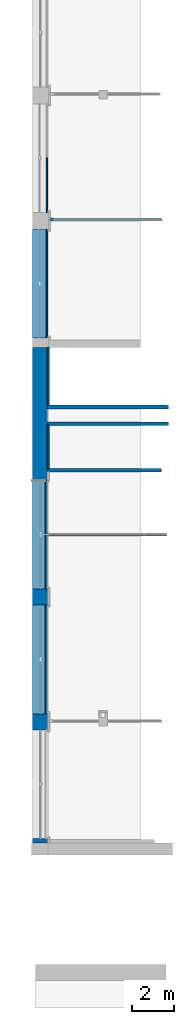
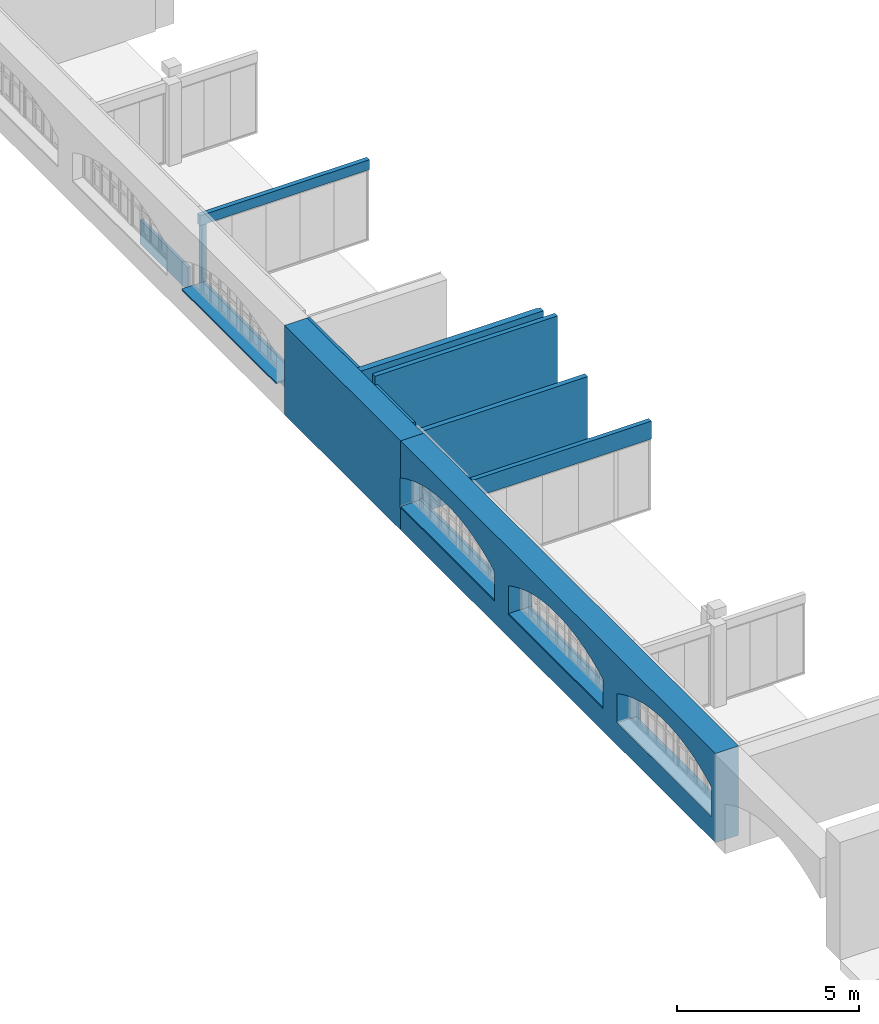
# One storey, part 28 of 32: 17 walls, 9 openings.
"""IFC2X3 building model written with IfcOpenShell, lengths in millimetres."""

from ifc_helpers import new_model, entity, si_unit, converted_unit, derived_unit, direction, frame, frame_2d, origin, origin_2d_with_axis, place, context, subcontext, project, spatial, polyline, circle_curve, parameter, trimmed, segment, composite_curve, rectangle, outline, extrude, clip, bounded_halfspace, material, layer, layer_set, layer_usage, type_object, element, save


model = new_model("IFC2X3")

# Units and contexts
model_context = context("Model", 3, precision=0.01, world=origin(), true_north=direction((6.123031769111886e-17, 1.0)))
body_context = subcontext(model_context, "Body", "Model", "MODEL_VIEW")
ifc_project = project(units=[si_unit("LENGTHUNIT", "METRE", prefix="MILLI"), si_unit("AREAUNIT", "SQUARE_METRE"), si_unit("VOLUMEUNIT", "CUBIC_METRE"), converted_unit("PLANEANGLEUNIT", "DEGREE", entity("IfcPlaneAngleMeasure", 0.017453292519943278), si_unit("PLANEANGLEUNIT", "RADIAN"), dimensions=[0, 0, 0, 0, 0, 0, 0]), si_unit("MASSUNIT", "GRAM", prefix="KILO"), derived_unit("MASSDENSITYUNIT", [(si_unit("MASSUNIT", "GRAM", prefix="KILO"), 1), (si_unit("LENGTHUNIT", "METRE"), -3)]), derived_unit("IONCONCENTRATIONUNIT", [(si_unit("MASSUNIT", "GRAM", prefix="KILO"), 1), (si_unit("LENGTHUNIT", "METRE"), -3)]), derived_unit("MOMENTOFINERTIAUNIT", [(si_unit("LENGTHUNIT", "METRE"), 4)]), si_unit("TIMEUNIT", "SECOND"), si_unit("FREQUENCYUNIT", "HERTZ"), si_unit("THERMODYNAMICTEMPERATUREUNIT", "DEGREE_CELSIUS"), derived_unit("THERMALTRANSMITTANCEUNIT", [(si_unit("MASSUNIT", "GRAM", prefix="KILO"), 1), (si_unit("THERMODYNAMICTEMPERATUREUNIT", "KELVIN"), -1), (si_unit("TIMEUNIT", "SECOND"), -3)]), derived_unit("THERMALCONDUCTANCEUNIT", [(si_unit("MASSUNIT", "GRAM", prefix="KILO"), 1), (si_unit("THERMODYNAMICTEMPERATUREUNIT", "KELVIN"), -1), (si_unit("TIMEUNIT", "SECOND"), -3), (si_unit("LENGTHUNIT", "METRE"), 1)]), derived_unit("VOLUMETRICFLOWRATEUNIT", [(si_unit("LENGTHUNIT", "METRE", prefix="DECI"), 3), (si_unit("TIMEUNIT", "SECOND"), -1)]), derived_unit("MASSFLOWRATEUNIT", [(si_unit("MASSUNIT", "GRAM", prefix="KILO"), 1), (si_unit("TIMEUNIT", "SECOND"), -1)]), derived_unit("ROTATIONALFREQUENCYUNIT", [(si_unit("TIMEUNIT", "SECOND"), -1)]), si_unit("ELECTRICCURRENTUNIT", "AMPERE"), si_unit("ELECTRICVOLTAGEUNIT", "VOLT"), si_unit("POWERUNIT", "WATT"), si_unit("FORCEUNIT", "NEWTON", prefix="KILO"), si_unit("ILLUMINANCEUNIT", "LUX"), si_unit("LUMINOUSFLUXUNIT", "LUMEN"), si_unit("LUMINOUSINTENSITYUNIT", "CANDELA"), si_unit("ENERGYUNIT", "JOULE"), derived_unit("USERDEFINED", [(si_unit("MASSUNIT", "GRAM", prefix="KILO"), -1), (si_unit("LENGTHUNIT", "METRE"), -2), (si_unit("TIMEUNIT", "SECOND"), 3), (si_unit("LUMINOUSFLUXUNIT", "LUMEN"), 1)]), derived_unit("USERDEFINED", [(si_unit("MASSUNIT", "GRAM", prefix="KILO"), 1), (si_unit("TIMEUNIT", "SECOND"), -3), (si_unit("LENGTHUNIT", "METRE"), 3), (si_unit("ELECTRICCURRENTUNIT", "AMPERE"), -2)]), derived_unit("SOUNDPOWERUNIT", [(si_unit("MASSUNIT", "GRAM", prefix="KILO"), 1), (si_unit("TIMEUNIT", "SECOND"), -3), (si_unit("LENGTHUNIT", "METRE"), 2)]), derived_unit("SOUNDPRESSUREUNIT", [(si_unit("MASSUNIT", "GRAM", prefix="KILO"), 1), (si_unit("LENGTHUNIT", "METRE"), -1), (si_unit("TIMEUNIT", "SECOND"), -2)]), derived_unit("LINEARVELOCITYUNIT", [(si_unit("LENGTHUNIT", "METRE"), 1), (si_unit("TIMEUNIT", "SECOND"), -1)]), si_unit("PRESSUREUNIT", "PASCAL"), derived_unit("USERDEFINED", [(si_unit("MASSUNIT", "GRAM", prefix="KILO"), 1), (si_unit("LENGTHUNIT", "METRE"), -2), (si_unit("TIMEUNIT", "SECOND"), -2)]), derived_unit("LINEARFORCEUNIT", [(si_unit("MASSUNIT", "GRAM", prefix="KILO"), 1), (si_unit("TIMEUNIT", "SECOND"), -2)]), derived_unit("PLANARFORCEUNIT", [(si_unit("MASSUNIT", "GRAM", prefix="KILO"), 1), (si_unit("LENGTHUNIT", "METRE"), -1), (si_unit("TIMEUNIT", "SECOND"), -2)]), derived_unit("SPECIFICHEATCAPACITYUNIT", [(si_unit("THERMODYNAMICTEMPERATUREUNIT", "KELVIN"), -1), (si_unit("LENGTHUNIT", "METRE"), 2), (si_unit("TIMEUNIT", "SECOND"), -2)]), derived_unit("HEATFLUXDENSITYUNIT", [(si_unit("MASSUNIT", "GRAM", prefix="KILO"), 1), (si_unit("TIMEUNIT", "SECOND"), -3)]), derived_unit("HEATINGVALUEUNIT", [(si_unit("LENGTHUNIT", "METRE"), 2), (si_unit("TIMEUNIT", "SECOND"), -2)]), derived_unit("VAPORPERMEABILITYUNIT", [(si_unit("LENGTHUNIT", "METRE"), -1), (si_unit("TIMEUNIT", "SECOND"), 1)]), derived_unit("DYNAMICVISCOSITYUNIT", [(si_unit("MASSUNIT", "GRAM", prefix="KILO"), 1), (si_unit("TIMEUNIT", "SECOND"), -1), (si_unit("LENGTHUNIT", "METRE"), -1)]), derived_unit("THERMALEXPANSIONCOEFFICIENTUNIT", [(si_unit("THERMODYNAMICTEMPERATUREUNIT", "KELVIN"), -1)]), derived_unit("MODULUSOFELASTICITYUNIT", [(si_unit("MASSUNIT", "GRAM", prefix="KILO"), 1), (si_unit("LENGTHUNIT", "METRE"), -1), (si_unit("TIMEUNIT", "SECOND"), -2)]), derived_unit("ISOTHERMALMOISTURECAPACITYUNIT", [(si_unit("MASSUNIT", "GRAM", prefix="KILO"), -1), (si_unit("LENGTHUNIT", "METRE"), 3)]), derived_unit("MOISTUREDIFFUSIVITYUNIT", [(si_unit("TIMEUNIT", "SECOND"), -1), (si_unit("LENGTHUNIT", "METRE"), 2)]), derived_unit("MASSPERLENGTHUNIT", [(si_unit("MASSUNIT", "GRAM", prefix="KILO"), 1), (si_unit("LENGTHUNIT", "METRE"), -1)]), derived_unit("THERMALRESISTANCEUNIT", [(si_unit("MASSUNIT", "GRAM", prefix="KILO"), -1), (si_unit("TIMEUNIT", "SECOND"), 3), (si_unit("THERMODYNAMICTEMPERATUREUNIT", "KELVIN"), 1)]), derived_unit("ACCELERATIONUNIT", [(si_unit("LENGTHUNIT", "METRE"), 1), (si_unit("TIMEUNIT", "SECOND"), -2)]), derived_unit("ANGULARVELOCITYUNIT", [(si_unit("TIMEUNIT", "SECOND"), -1), (si_unit("PLANEANGLEUNIT", "RADIAN"), 1)]), derived_unit("LINEARSTIFFNESSUNIT", [(si_unit("MASSUNIT", "GRAM", prefix="KILO"), 1), (si_unit("TIMEUNIT", "SECOND"), -2)]), derived_unit("WARPINGCONSTANTUNIT", [(si_unit("LENGTHUNIT", "METRE"), 6)]), derived_unit("LINEARMOMENTUNIT", [(si_unit("MASSUNIT", "GRAM", prefix="KILO"), 1), (si_unit("LENGTHUNIT", "METRE"), 1), (si_unit("TIMEUNIT", "SECOND"), -2)]), derived_unit("TORQUEUNIT", [(si_unit("MASSUNIT", "GRAM", prefix="KILO"), 1), (si_unit("LENGTHUNIT", "METRE"), 2), (si_unit("TIMEUNIT", "SECOND"), -2)])], contexts=[model_context])

# Site, building, storey
site_placement = place(None, origin())
site = spatial("IfcSite", under=ifc_project, at=site_placement, Name="Default", CompositionType="ELEMENT")
building_placement = place(site_placement, origin())
building = spatial("IfcBuilding", under=site, at=building_placement, Name="Eesti Rahvusraamatukogu hoone renoveerimise projekteerimistööd", CompositionType="ELEMENT")
storey_placement = place(building_placement, frame((0.0, 0.0, 4950.000000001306)))
storey = spatial("IfcBuildingStorey", under=building, at=storey_placement, Name="2. korrus", CompositionType="ELEMENT", Elevation=4950.000000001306)

# Wall
ifc_material_1 = material(Name="ol. olev materjal")
ifc_layer_1 = layer(ifc_material_1, 780.0)
ifc_layer_set_1 = layer_set([ifc_layer_1], Name="Basic Wall:ol. olev - 780mm")
ifc_layer_usage_1 = layer_usage(ifc_layer_set_1, "AXIS2", "NEGATIVE", 390.0)
wall_type_1 = type_object("IfcWallType", Name="Basic Wall:ol. olev - 780mm", PredefinedType="STANDARD", material=ifc_layer_set_1)
wall_1_placement = place(storey_placement, frame((-36390.0, 35955.440291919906, 750.0), z_axis=(0.0, 0.0, 1.0), x_axis=(0.0, -1.0, 0.0)))
element("IfcWallStandardCase", 1, at=wall_1_placement, inside=storey, type_object=wall_type_1, material=ifc_layer_usage_1, Name="Basic Wall:ol. olev - 780mm", ObjectType="Basic Wall:ol. olev - 780mm", context=body_context, shape_type="SweptSolid", body=[
    extrude(rectangle(XDim=660.0000000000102, YDim=5199.999999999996, at=frame_2d((-2.1600499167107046e-12, 0.0), x_axis=(1.0, 0.0))), frame((2600.0, -60.0, 0.0), z_axis=(0.0, 0.0, 1.0), x_axis=(0.0, 1.0, 0.0)), (0.0, 0.0, 1.0), 49.99999999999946),
])

# Wall, openings
ifc_layer_2 = layer(ifc_material_1, 720.0)
ifc_layer_set_2 = layer_set([ifc_layer_2], Name="Basic Wall:ol. olev - 720mm")
ifc_layer_usage_2 = layer_usage(ifc_layer_set_2, "AXIS2", "NEGATIVE", 360.0)
wall_type_2 = type_object("IfcWallType", Name="Basic Wall:ol. olev - 720mm", PredefinedType="STANDARD", material=ifc_layer_set_2)
wall_2_placement = place(storey_placement, frame((-36420.0, 30305.0, 0.0), z_axis=(0.0, 0.0, 1.0), x_axis=(0.0, -1.0, 0.0)))
wall_2 = element("IfcWallStandardCase", 2, at=wall_2_placement, inside=storey, type_object=wall_type_2, material=ifc_layer_usage_2, Name="Basic Wall:ol. olev - 720mm", ObjectType="Basic Wall:ol. olev - 720mm", context=body_context, shape_type="SweptSolid", body=[
    extrude(rectangle(XDim=6398.554408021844, YDim=720.0000000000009, at=frame_2d((3199.277204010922, 7.673861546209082e-13), x_axis=(-1.0, 0.0))), origin(), (0.0, 0.0, 1.0), 3000.000000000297),
])
opening_1_placement = place(wall_2_placement, frame((11557.899680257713, -512.4000000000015, 750.0)))
element("IfcOpeningElement", 3, at=opening_1_placement, cuts=wall_2, Name="Basic Wall:ol. olev - 720mm", ObjectType="Opening", context=body_context, shape_type="SweptSolid", body=[
    extrude(outline(composite_curve([segment(polyline([(-465.0, -2600.0), (465.0, -2600.0)]), True, "CONTINUOUS"), segment(trimmed(circle_curve(frame_2d((-4244.776119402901, 0.0), x_axis=(0.0, -1.0)), 5379.776119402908), [parameter(61.09940419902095)], [parameter(118.90059580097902)], True, "PARAMETER"), True, "CONTINUOUS"), segment(polyline([(465.0, 2600.0), (-465.0, 2600.0)]), True, "CONTINUOUS"), segment(polyline([(-465.0, 2600.0), (-465.0, -2600.0)]), True, "CONTINUOUS")], self_intersect=False)), frame((-2601.5952722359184, 0.0, 465.0), z_axis=(0.0, 1.0, 0.0), x_axis=(0.0, 0.0, 1.0)), (0.0, 0.0, 1.0), 1024.8000000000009),
])
opening_2_placement = place(wall_2_placement, frame((11557.899680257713, -512.4000000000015, 800.0)))
element("IfcOpeningElement", 4, at=opening_2_placement, cuts=wall_2, Name="Basic Wall:ol. olev - 720mm", ObjectType="Opening", context=body_context, shape_type="SweptSolid", body=[
    extrude(outline(composite_curve([segment(polyline([(-465.0, -2600.0), (465.0, -2600.0)]), True, "CONTINUOUS"), segment(trimmed(circle_curve(frame_2d((-4244.776119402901, 0.0), x_axis=(0.0, -1.0)), 5379.776119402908), [parameter(61.09940419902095)], [parameter(118.90059580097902)], True, "PARAMETER"), True, "CONTINUOUS"), segment(polyline([(465.0, 2600.0), (-465.0, 2600.0)]), True, "CONTINUOUS"), segment(polyline([(-465.0, 2600.0), (-465.0, -2600.0)]), True, "CONTINUOUS")], self_intersect=False)), frame((-2601.5952722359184, 0.0, 465.0), z_axis=(0.0, 1.0, 0.0), x_axis=(0.0, 0.0, 1.0)), (0.0, 0.0, 1.0), 1024.8000000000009),
])

# Wall
ifc_layer_3 = layer(ifc_material_1, 200.0)
ifc_layer_set_3 = layer_set([ifc_layer_3], Name="Basic Wall:ol. olev - 200mm")
ifc_layer_usage_3 = layer_usage(ifc_layer_set_3, "AXIS2", "NEGATIVE", 100.0)
wall_type_3 = type_object("IfcWallType", Name="Basic Wall:ol. olev - 200mm", PredefinedType="STANDARD", material=ifc_layer_set_3)
wall_3_placement = place(storey_placement, frame((-36060.0, 27445.0, 0.0)))
element("IfcWallStandardCase", 5, at=wall_3_placement, inside=storey, type_object=wall_type_3, material=ifc_layer_usage_3, Name="Basic Wall:ol. olev - 200mm", ObjectType="Basic Wall:ol. olev - 200mm", context=body_context, shape_type="Clipping", body=[
    clip(extrude(outline(polyline([(5800.0, -100.0), (5800.0, 75.0), (5720.0, 75.0), (5720.0, 100.0), (5565.0, 100.0), (5465.0, 100.0), (0.0, 100.0), (0.0, -100.0), (5800.0, -100.0)])), origin(), (0.0, 0.0, 1.0), 3000.000000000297), bounded_halfspace(frame((2290.0, -100.0, 3000.0), z_axis=(0.0, 0.0, -1.0), x_axis=(0.0, 1.0, 0.0)), True, frame((2290.0, -100.0, 3000.0)), polyline([(0.0, 0.0), (3510.0, 0.0), (3510.0, 175.0), (3430.0, 175.0), (3430.0, 200.0), (3275.0, 200.0), (3175.0, 200.0), (0.0, 200.0), (0.0, 0.0)]))),
])

# Wall, openings
ifc_layer_4 = layer(ifc_material_1, 740.0)
ifc_layer_set_4 = layer_set([ifc_layer_4], Name="Basic Wall:ol. olev - 740mm")
ifc_layer_usage_4 = layer_usage(ifc_layer_set_4, "AXIS2", "NEGATIVE", 370.0)
wall_type_4 = type_object("IfcWallType", Name="Basic Wall:ol. olev - 740mm", PredefinedType="STANDARD", material=ifc_layer_set_4)
wall_4_placement = place(storey_placement, frame((-36410.0, 23906.445591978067, 0.0), z_axis=(0.0, 0.0, 1.0), x_axis=(0.0, -1.0, 0.0)))
wall_4 = element("IfcWallStandardCase", 6, at=wall_4_placement, inside=storey, type_object=wall_type_4, material=ifc_layer_usage_4, Name="Basic Wall:ol. olev - 740mm", ObjectType="Basic Wall:ol. olev - 740mm", context=body_context, shape_type="SweptSolid", body=[
    extrude(rectangle(XDim=17316.445591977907, YDim=739.9999999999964, at=frame_2d((8658.222795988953, -4.263256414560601e-13), x_axis=(-1.0, 0.0))), origin(), (0.0, 0.0, 1.0), 3000.000000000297),
])
opening_3_placement = place(wall_4_placement, frame((5159.3452722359, -522.4000000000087, 800.0)))
element("IfcOpeningElement", 7, at=opening_3_placement, cuts=wall_4, Name="Basic Wall:ol. olev - 740mm", ObjectType="Opening", context=body_context, shape_type="SweptSolid", body=[
    extrude(outline(composite_curve([segment(polyline([(-465.0, -2600.0), (465.0, -2600.0)]), True, "CONTINUOUS"), segment(trimmed(circle_curve(frame_2d((-4244.776119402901, 0.0), x_axis=(0.0, -1.0)), 5379.776119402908), [parameter(61.09940419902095)], [parameter(118.90059580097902)], True, "PARAMETER"), True, "CONTINUOUS"), segment(polyline([(465.0, 2600.0), (-465.0, 2600.0)]), True, "CONTINUOUS"), segment(polyline([(-465.0, 2600.0), (-465.0, -2600.0)]), True, "CONTINUOUS")], self_intersect=False)), frame((-2601.5952722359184, 0.0, 465.0), z_axis=(0.0, 1.0, 0.0), x_axis=(0.0, 0.0, 1.0)), (0.0, 0.0, 1.0), 1044.8000000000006),
])
opening_4_placement = place(wall_4_placement, frame((5159.3452722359, -522.4000000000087, 750.0)))
element("IfcOpeningElement", 8, at=opening_4_placement, cuts=wall_4, Name="Basic Wall:ol. olev - 740mm", ObjectType="Opening", context=body_context, shape_type="SweptSolid", body=[
    extrude(outline(composite_curve([segment(polyline([(-465.0, -2600.0), (465.0, -2600.0)]), True, "CONTINUOUS"), segment(trimmed(circle_curve(frame_2d((-4244.776119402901, 0.0), x_axis=(0.0, -1.0)), 5379.776119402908), [parameter(61.09940419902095)], [parameter(118.90059580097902)], True, "PARAMETER"), True, "CONTINUOUS"), segment(polyline([(465.0, 2600.0), (-465.0, 2600.0)]), True, "CONTINUOUS"), segment(polyline([(-465.0, 2600.0), (-465.0, -2600.0)]), True, "CONTINUOUS")], self_intersect=False)), frame((-2601.5952722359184, 0.0, 465.0), z_axis=(0.0, 1.0, 0.0), x_axis=(0.0, 0.0, 1.0)), (0.0, 0.0, 1.0), 1044.8000000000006),
])
opening_5_placement = place(wall_4_placement, frame((17111.440864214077, -522.4000000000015, 750.0)))
element("IfcOpeningElement", 9, at=opening_5_placement, cuts=wall_4, Name="Basic Wall:ol. olev - 740mm", ObjectType="Opening", context=body_context, shape_type="SweptSolid", body=[
    extrude(outline(composite_curve([segment(polyline([(-465.0, -2600.0), (465.0, -2600.0)]), True, "CONTINUOUS"), segment(trimmed(circle_curve(frame_2d((-4244.776119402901, 0.0), x_axis=(0.0, -1.0)), 5379.776119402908), [parameter(61.09940419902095)], [parameter(118.90059580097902)], True, "PARAMETER"), True, "CONTINUOUS"), segment(polyline([(465.0, 2600.0), (-465.0, 2600.0)]), True, "CONTINUOUS"), segment(polyline([(-465.0, 2600.0), (-465.0, -2600.0)]), True, "CONTINUOUS")], self_intersect=False)), frame((-2601.5952722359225, 0.0, 465.0), z_axis=(0.0, 1.0, 0.0), x_axis=(0.0, 0.0, 1.0)), (0.0, 0.0, 1.0), 1044.8000000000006),
])
opening_6_placement = place(wall_4_placement, frame((11139.345272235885, -522.4000000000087, 750.0)))
element("IfcOpeningElement", 10, at=opening_6_placement, cuts=wall_4, Name="Basic Wall:ol. olev - 740mm", ObjectType="Opening", context=body_context, shape_type="SweptSolid", body=[
    extrude(outline(composite_curve([segment(polyline([(-465.0, -2600.0), (465.0, -2600.0)]), True, "CONTINUOUS"), segment(trimmed(circle_curve(frame_2d((-4244.776119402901, 0.0), x_axis=(0.0, -1.0)), 5379.776119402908), [parameter(61.09940419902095)], [parameter(118.90059580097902)], True, "PARAMETER"), True, "CONTINUOUS"), segment(polyline([(465.0, 2600.0), (-465.0, 2600.0)]), True, "CONTINUOUS"), segment(polyline([(-465.0, 2600.0), (-465.0, -2600.0)]), True, "CONTINUOUS")], self_intersect=False)), frame((-2601.5952722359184, 0.0, 465.0), z_axis=(0.0, 1.0, 0.0), x_axis=(0.0, 0.0, 1.0)), (0.0, 0.0, 1.0), 1044.8000000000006),
])
opening_7_placement = place(wall_4_placement, frame((17111.440864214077, -522.4000000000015, 800.0)))
element("IfcOpeningElement", 11, at=opening_7_placement, cuts=wall_4, Name="Basic Wall:ol. olev - 740mm", ObjectType="Opening", context=body_context, shape_type="SweptSolid", body=[
    extrude(outline(composite_curve([segment(polyline([(-465.0, -2600.0), (465.0, -2600.0)]), True, "CONTINUOUS"), segment(trimmed(circle_curve(frame_2d((-4244.776119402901, 0.0), x_axis=(0.0, -1.0)), 5379.776119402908), [parameter(61.09940419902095)], [parameter(118.90059580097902)], True, "PARAMETER"), True, "CONTINUOUS"), segment(polyline([(465.0, 2600.0), (-465.0, 2600.0)]), True, "CONTINUOUS"), segment(polyline([(-465.0, 2600.0), (-465.0, -2600.0)]), True, "CONTINUOUS")], self_intersect=False)), frame((-2601.5952722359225, 0.0, 465.0), z_axis=(0.0, 1.0, 0.0), x_axis=(0.0, 0.0, 1.0)), (0.0, 0.0, 1.0), 1044.8000000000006),
])
opening_8_placement = place(wall_4_placement, frame((11139.345272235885, -522.4000000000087, 800.0)))
element("IfcOpeningElement", 12, at=opening_8_placement, cuts=wall_4, Name="Basic Wall:ol. olev - 740mm", ObjectType="Opening", context=body_context, shape_type="SweptSolid", body=[
    extrude(outline(composite_curve([segment(polyline([(-465.0, -2600.0), (465.0, -2600.0)]), True, "CONTINUOUS"), segment(trimmed(circle_curve(frame_2d((-4244.776119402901, 0.0), x_axis=(0.0, -1.0)), 5379.776119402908), [parameter(61.09940419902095)], [parameter(118.90059580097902)], True, "PARAMETER"), True, "CONTINUOUS"), segment(polyline([(465.0, 2600.0), (-465.0, 2600.0)]), True, "CONTINUOUS"), segment(polyline([(-465.0, 2600.0), (-465.0, -2600.0)]), True, "CONTINUOUS")], self_intersect=False)), frame((-2601.5952722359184, 0.0, 465.0), z_axis=(0.0, 1.0, 0.0), x_axis=(0.0, 0.0, 1.0)), (0.0, 0.0, 1.0), 1044.8000000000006),
])
opening_9_placement = place(wall_4_placement, frame((23906.445591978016, 36410.0, -4950.000000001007)))
element("IfcOpeningElement", 13, at=opening_9_placement, cuts=wall_4, Name="Basic Wall:ol. olev - 740mm", ObjectType="Recess", context=body_context, shape_type="SweptSolid", body=[
    extrude(rectangle(XDim=799.9999999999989, YDim=5199.999999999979, at=frame_2d((-5.400124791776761e-13, 0.0), x_axis=(1.0, 0.0))), frame((-21348.69559197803, -36159.51294577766, 5350.000000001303), z_axis=(0.0, 1.0, 0.0), x_axis=(0.0, 0.0, -1.0)), (0.0, 0.0, 1.0), 119.9999999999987),
    extrude(rectangle(XDim=799.9999999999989, YDim=5199.999999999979, at=frame_2d((-5.400124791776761e-13, 0.0), x_axis=(1.0, 0.0))), frame((-9396.599999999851, -36159.51294577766, 5350.000000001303), z_axis=(0.0, 1.0, 0.0), x_axis=(0.0, 0.0, -1.0)), (0.0, 0.0, 1.0), 119.9999999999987),
    extrude(rectangle(XDim=799.9999999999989, YDim=5199.999999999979, at=frame_2d((-5.400124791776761e-13, 0.0), x_axis=(1.0, 0.0))), frame((-15368.695591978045, -36159.512945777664, 5350.000000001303), z_axis=(0.0, 1.0, 0.0), x_axis=(0.0, 0.0, -1.0)), (0.0, 0.0, 1.0), 119.9999999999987),
])

# Walls
ifc_layer_usage_5 = layer_usage(ifc_layer_set_4, "AXIS2", "NEGATIVE", 370.0)
wall_5_placement = place(storey_placement, frame((-36410.0, 23906.445591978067, 750.0), z_axis=(0.0, 0.0, 1.0), x_axis=(0.0, -1.0, 0.0)))
element("IfcWallStandardCase", 14, at=wall_5_placement, inside=storey, type_object=wall_type_4, material=ifc_layer_usage_5, Name="Basic Wall:ol. olev - 740mm", ObjectType="Basic Wall:ol. olev - 740mm", context=body_context, shape_type="SweptSolid", body=[
    extrude(rectangle(XDim=620.487054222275, YDim=5157.74999999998, at=frame_2d((-4.320099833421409e-12, -2.0463630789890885e-12), x_axis=(1.0, 0.0))), frame((2578.8749999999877, -59.756472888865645, 0.0), z_axis=(0.0, 0.0, 1.0), x_axis=(0.0, 1.0, 0.0)), (0.0, 0.0, 1.0), 49.99999999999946),
])
ifc_layer_usage_6 = layer_usage(ifc_layer_set_4, "AXIS2", "NEGATIVE", 370.0)
wall_6_placement = place(storey_placement, frame((-36410.0, 17968.6955919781, 750.0), z_axis=(0.0, 0.0, 1.0), x_axis=(0.0, -1.0, 0.0)))
element("IfcWallStandardCase", 15, at=wall_6_placement, inside=storey, type_object=wall_type_4, material=ifc_layer_usage_6, Name="Basic Wall:ol. olev - 740mm", ObjectType="Basic Wall:ol. olev - 740mm", context=body_context, shape_type="SweptSolid", body=[
    extrude(rectangle(XDim=620.487054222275, YDim=5199.999999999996, at=origin_2d_with_axis()), frame((2600.0, -59.75647288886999, 0.0), z_axis=(0.0, 0.0, 1.0), x_axis=(0.0, 1.0, 0.0)), (0.0, 0.0, 1.0), 49.99999999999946),
])
ifc_layer_5 = layer(ifc_material_1, 160.0)
ifc_layer_set_5 = layer_set([ifc_layer_5], Name="Basic Wall:ol. olev - 160mm")
ifc_layer_usage_7 = layer_usage(ifc_layer_set_5, "AXIS2", "NEGATIVE", 80.0)
wall_type_5 = type_object("IfcWallType", Name="Basic Wall:ol. olev - 160mm", PredefinedType="STANDARD", material=ifc_layer_set_5)
wall_7_placement = place(storey_placement, frame((-36060.0, 24420.0, 0.0)))
element("IfcWallStandardCase", 16, at=wall_7_placement, inside=storey, type_object=wall_type_5, material=ifc_layer_usage_7, Name="Basic Wall:ol. olev - 160mm", ObjectType="Basic Wall:ol. olev - 160mm", context=body_context, shape_type="Clipping", body=[
    clip(extrude(rectangle(XDim=5470.000000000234, YDim=159.9999999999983, at=frame_2d((2735.000000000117, -2.842170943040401e-14), x_axis=(-1.0, 0.0))), origin(), (0.0, 0.0, 1.0), 2730.0000000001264), bounded_halfspace(frame((0.0, -80.0, 2730.0), z_axis=(0.0, 0.0, -1.0), x_axis=(-1.0, 0.0, 0.0)), True, frame((0.0, -80.0, 2730.0), z_axis=(0.0, 0.0, -1.0), x_axis=(-1.0, 0.0, 0.0)), polyline([(0.0, 0.0), (0.0, 160.0), (-5470.0, 160.0), (-5470.0, 0.0), (0.0, 0.0)]))),
])
ifc_material_2 = material(Name="EST. Ehitusplaat. Kipsplaat")
ifc_layer_6 = layer(ifc_material_2, 12.5)
ifc_layer_7 = layer(ifc_material_2, 12.5)
ifc_material_3 = material(Name="EST. Roov. Kipsplaadi alusroov.Mineraalvillaga. Vertikaalne")
ifc_layer_8 = layer(ifc_material_3, 95.00000000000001)
ifc_layer_9 = layer(ifc_material_2, 12.5)
ifc_layer_10 = layer(ifc_material_2, 12.5)
ifc_layer_set_6 = layer_set([ifc_layer_6, ifc_layer_7, ifc_layer_8, ifc_layer_9, ifc_layer_10], Name="Basic Wall:SS-52 - 145 kergsein 48db")
ifc_layer_usage_8 = layer_usage(ifc_layer_set_6, "AXIS2", "NEGATIVE", 72.5)
wall_type_6 = type_object("IfcWallType", Name="Basic Wall:SS-52 - 145 kergsein 48db", PredefinedType="STANDARD", material=ifc_layer_set_6)
wall_8_placement = place(storey_placement, frame((-35970.0, 36420.0, 2399.999999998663)))
element("IfcWallStandardCase", 17, at=wall_8_placement, inside=storey, type_object=wall_type_6, material=ifc_layer_usage_8, Name="Basic Wall:SS-52 - 145 kergsein 48db", ObjectType="Basic Wall:SS-52 - 145 kergsein 48db", context=body_context, shape_type="Clipping", body=[
    clip(extrude(rectangle(XDim=5380.000000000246, YDim=145.00000000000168, at=frame_2d((2690.000000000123, 0.0), x_axis=(-1.0, 0.0))), origin(), (0.0, 0.0, 1.0), 330.00000000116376), bounded_halfspace(frame((0.0, -72.50000000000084, 330.0), z_axis=(0.0, 0.0, -1.0), x_axis=(-1.0, 0.0, 0.0)), True, frame((0.0, -72.50000000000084, 330.0), z_axis=(0.0, 0.0, -1.0), x_axis=(-1.0, 0.0, 0.0)), polyline([(0.0, 0.0), (0.0, 145.0), (-5380.0, 145.0), (-5380.0, 0.0), (0.0, 0.0)]))),
])
ifc_layer_usage_9 = layer_usage(ifc_layer_set_6, "AXIS2", "NEGATIVE", 72.5)
wall_9_placement = place(storey_placement, frame((-36010.0, 21350.0, 2399.999999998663)))
element("IfcWallStandardCase", 18, at=wall_9_placement, inside=storey, type_object=wall_type_6, material=ifc_layer_usage_9, Name="Basic Wall:SS-52 - 145 kergsein 48db", ObjectType="Basic Wall:SS-52 - 145 kergsein 48db", context=body_context, shape_type="SweptSolid", body=[
    extrude(rectangle(XDim=5675.000000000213, YDim=145.00000000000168, at=frame_2d((2837.5000000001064, 0.0), x_axis=(-1.0, 0.0))), origin(), (0.0, 0.0, 1.0), 600.0000000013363),
])
ifc_layer_usage_10 = layer_usage(ifc_layer_set_6, "AXIS2", "NEGATIVE", 72.5)
wall_10_placement = place(storey_placement, frame((-35915.49999999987, 36420.0, 0.0)))
element("IfcWallStandardCase", 19, at=wall_10_placement, inside=storey, type_object=wall_type_6, material=ifc_layer_usage_10, Name="Basic Wall:SS-52 - 145 kergsein 48db", ObjectType="Basic Wall:SS-52 - 145 kergsein 48db", context=body_context, shape_type="SweptSolid", body=[
    extrude(rectangle(XDim=150.00000000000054, YDim=145.00000000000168, at=frame_2d((75.00000000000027, 0.0), x_axis=(-1.0, 0.0))), origin(), (0.0, 0.0, 1.0), 2400.0),
])
ifc_material_4 = material(Name="EST. Müüritis. Väikeplokk. Betoon-õõnesplokk")
ifc_layer_11 = layer(ifc_material_4, 150.0)
ifc_layer_set_7 = layer_set([ifc_layer_11], Name="Basic Wall:SS-71 - 150 poorbetoon acoustic")
ifc_layer_usage_11 = layer_usage(ifc_layer_set_7, "AXIS2", "NEGATIVE", 75.0)
wall_type_7 = type_object("IfcWallType", Name="Basic Wall:SS-71 - 150 poorbetoon acoustic", PredefinedType="STANDARD", material=ifc_layer_set_7)
wall_11_placement = place(storey_placement, frame((-36060.0, 26645.0, 0.0)))
element("IfcWallStandardCase", 20, at=wall_11_placement, inside=storey, type_object=wall_type_7, material=ifc_layer_usage_11, Name="Basic Wall:SS-71 - 150 poorbetoon acoustic", ObjectType="Basic Wall:SS-71 - 150 poorbetoon acoustic", context=body_context, shape_type="SweptSolid", body=[
    extrude(rectangle(XDim=5800.000000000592, YDim=150.00000000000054, at=frame_2d((2900.000000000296, 0.0), x_axis=(-1.0, 0.0))), origin(), (0.0, 0.0, 1.0), 3299.999999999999),
])
ifc_material_5 = material(Name="EST. Soojustus.PIR_Powerwall Pro")
ifc_layer_12 = layer(ifc_material_5, 30.0)
ifc_material_6 = material(Name="EST. Metall. Alumiinium. Mütsprofiil.")
ifc_layer_13 = layer(ifc_material_6, 42.0)
ifc_layer_14 = layer(ifc_material_2, 12.5)
ifc_layer_set_8 = layer_set([ifc_layer_12, ifc_layer_13, ifc_layer_14], Name="Basic Wall:VS-03.1 - soojustus")
ifc_layer_usage_12 = layer_usage(ifc_layer_set_8, "AXIS2", "NEGATIVE", 42.25000000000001)
wall_type_8 = type_object("IfcWallType", Name="Basic Wall:VS-03.1 - soojustus", PredefinedType="STANDARD", material=ifc_layer_set_8)
wall_12_placement = place(storey_placement, frame((-36017.749999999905, 24500.0, 0.0), z_axis=(0.0, 0.0, 1.0), x_axis=(0.0, 1.0, 0.0)))
element("IfcWallStandardCase", 21, at=wall_12_placement, inside=storey, type_object=wall_type_8, material=ifc_layer_usage_12, Name="Basic Wall:VS-03.1 - soojustus", ObjectType="Basic Wall:VS-03.1 - soojustus", context=body_context, shape_type="SweptSolid", body=[
    extrude(rectangle(XDim=2100.0000000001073, YDim=84.49999999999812, at=frame_2d((1050.0000000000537, 6.359357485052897e-13), x_axis=(-1.0, 0.0))), origin(), (0.0, 0.0, 1.0), 2999.999999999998),
])
ifc_layer_usage_13 = layer_usage(ifc_layer_set_8, "AXIS2", "NEGATIVE", 42.25000000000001)
wall_13_placement = place(storey_placement, frame((-36017.7499999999, 27545.0, 0.0), z_axis=(0.0, 0.0, 1.0), x_axis=(0.0, 1.0, 0.0)))
element("IfcWallStandardCase", 22, at=wall_13_placement, inside=storey, type_object=wall_type_8, material=ifc_layer_usage_13, Name="Basic Wall:VS-03.1 - soojustus", ObjectType="Basic Wall:VS-03.1 - soojustus", context=body_context, shape_type="SweptSolid", body=[
    extrude(rectangle(XDim=2760.0000000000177, YDim=84.49999999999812, at=frame_2d((1380.0000000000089, 4.618527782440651e-13), x_axis=(-1.0, 0.0))), origin(), (0.0, 0.0, 1.0), 2999.999999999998),
])
ifc_layer_usage_14 = layer_usage(ifc_layer_set_8, "AXIS2", "POSITIVE", -42.25000000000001)
wall_14_placement = place(storey_placement, frame((-36077.74999999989, 35955.440291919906, 0.0), z_axis=(0.0, 0.0, 1.0), x_axis=(0.0, -1.0, 0.0)))
element("IfcWallStandardCase", 23, at=wall_14_placement, inside=storey, type_object=wall_type_8, material=ifc_layer_usage_14, Name="Basic Wall:VS-03.1 - soojustus", ObjectType="Basic Wall:VS-03.1 - soojustus", context=body_context, shape_type="SweptSolid", body=[
    extrude(rectangle(XDim=5199.999999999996, YDim=84.49999999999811, at=frame_2d((2599.999999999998, 0.0), x_axis=(-1.0, 0.0))), origin(), (0.0, 0.0, 1.0), 800.0000000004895),
])
ifc_layer_usage_15 = layer_usage(ifc_layer_set_8, "AXIS2", "POSITIVE", -42.25000000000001)
wall_15_placement = place(storey_placement, frame((-36077.74999999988, 39407.50000000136, 0.0), z_axis=(0.0, 0.0, 1.0), x_axis=(0.0, -1.0, 0.0)))
element("IfcWallStandardCase", 24, at=wall_15_placement, inside=storey, type_object=wall_type_8, material=ifc_layer_usage_15, Name="Basic Wall:VS-03.1 - soojustus", ObjectType="Basic Wall:VS-03.1 - soojustus", context=body_context, shape_type="SweptSolid", body=[
    extrude(rectangle(XDim=2649.9999999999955, YDim=84.49999999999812, at=frame_2d((1324.9999999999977, 4.263256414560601e-14), x_axis=(-1.0, 0.0))), origin(), (0.0, 0.0, 1.0), 800.0000000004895),
])
ifc_layer_usage_16 = layer_usage(ifc_layer_set_8, "AXIS2", "POSITIVE", -42.25000000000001)
wall_16_placement = place(storey_placement, frame((-36117.26294577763, 23948.695591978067, 0.0), z_axis=(0.0, 0.0, 1.0), x_axis=(0.0, -1.0, 0.0)))
element("IfcWallStandardCase", 25, at=wall_16_placement, inside=storey, type_object=wall_type_8, material=ifc_layer_usage_16, Name="Basic Wall:VS-03.1 - soojustus", ObjectType="Basic Wall:VS-03.1 - soojustus", context=body_context, shape_type="SweptSolid", body=[
    extrude(rectangle(XDim=5199.999999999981, YDim=84.49999999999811, at=frame_2d((2599.9999999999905, 0.0), x_axis=(-1.0, 0.0))), origin(), (0.0, 0.0, 1.0), 800.0000000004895),
])
ifc_layer_usage_17 = layer_usage(ifc_layer_set_8, "AXIS2", "POSITIVE", -42.25000000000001)
wall_17_placement = place(storey_placement, frame((-36117.26294577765, 17967.6955919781, 0.0), z_axis=(0.0, 0.0, 1.0), x_axis=(0.0, -1.0, 0.0)))
element("IfcWallStandardCase", 26, at=wall_17_placement, inside=storey, type_object=wall_type_8, material=ifc_layer_usage_17, Name="Basic Wall:VS-03.1 - soojustus", ObjectType="Basic Wall:VS-03.1 - soojustus", context=body_context, shape_type="SweptSolid", body=[
    extrude(rectangle(XDim=5197.999999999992, YDim=84.49999999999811, at=frame_2d((2598.999999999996, 0.0), x_axis=(-1.0, 0.0))), origin(), (0.0, 0.0, 1.0), 800.0000000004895),
])

save(model, "model.ifc")
